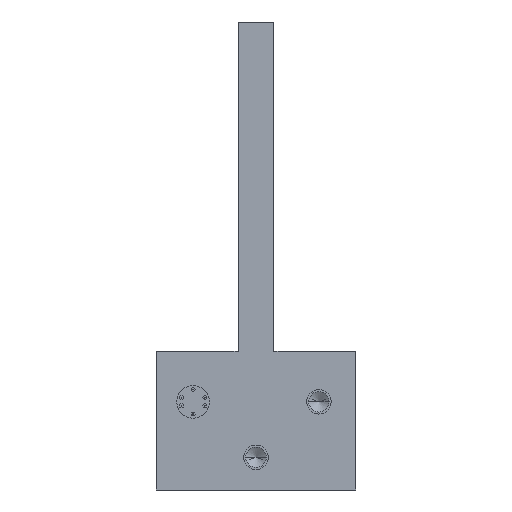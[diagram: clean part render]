
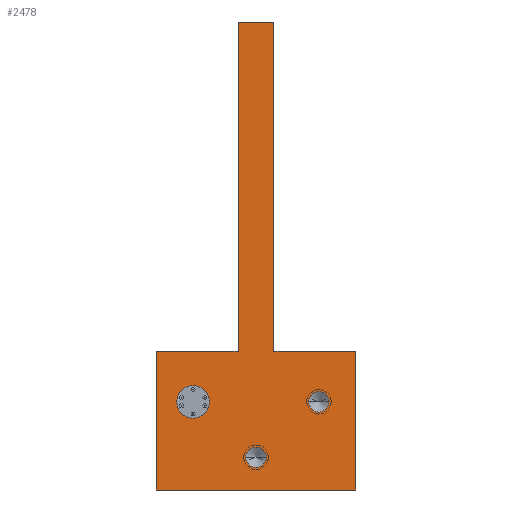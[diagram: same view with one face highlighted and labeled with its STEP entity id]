
A CAD part, front view. The second image highlights one B-rep face of the part: STEP entity #2478.
In plain terms, the highlighted planar face has unit normal (0, -1, 0).
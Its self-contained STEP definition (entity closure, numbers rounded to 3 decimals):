
#1=DIRECTION('',(1.,0.,0.));
#2=VECTOR('',#1,10.);
#3=CARTESIAN_POINT('',(2.2,-199.4,0.));
#4=LINE('',#3,#2);
#5=DIRECTION('',(0.,0.,-1.));
#6=VECTOR('',#5,17.);
#7=CARTESIAN_POINT('',(12.2,-199.4,0.));
#8=LINE('',#7,#6);
#9=DIRECTION('',(-1.,0.,0.));
#10=VECTOR('',#9,24.4);
#11=CARTESIAN_POINT('',(12.2,-199.4,-17.));
#12=LINE('',#11,#10);
#13=DIRECTION('',(0.,0.,1.));
#14=VECTOR('',#13,17.);
#15=CARTESIAN_POINT('',(-12.2,-199.4,-17.));
#16=LINE('',#15,#14);
#17=DIRECTION('',(1.,0.,0.));
#18=VECTOR('',#17,10.);
#19=CARTESIAN_POINT('',(-12.2,-199.4,0.));
#20=LINE('',#19,#18);
#21=DIRECTION('',(0.,0.,1.));
#22=VECTOR('',#21,40.3);
#23=CARTESIAN_POINT('',(-2.2,-199.4,0.));
#24=LINE('',#23,#22);
#25=DIRECTION('',(1.,0.,0.));
#26=VECTOR('',#25,4.4);
#27=CARTESIAN_POINT('',(-2.2,-199.4,40.3));
#28=LINE('',#27,#26);
#29=DIRECTION('',(0.,0.,-1.));
#30=VECTOR('',#29,40.3);
#31=CARTESIAN_POINT('',(2.2,-199.4,40.3));
#32=LINE('',#31,#30);
#33=CARTESIAN_POINT('',(0.,-199.4,-13.));
#34=DIRECTION('',(0.,-1.,0.));
#35=DIRECTION('',(-1.,0.,0.));
#36=AXIS2_PLACEMENT_3D('',#33,#34,#35);
#38=CARTESIAN_POINT('',(0.,-199.4,-13.));
#39=DIRECTION('',(0.,-1.,0.));
#40=DIRECTION('',(1.,0.,0.));
#41=AXIS2_PLACEMENT_3D('',#38,#39,#40);
#43=CARTESIAN_POINT('',(7.7,-199.4,-6.2));
#44=DIRECTION('',(0.,-1.,0.));
#45=DIRECTION('',(-1.,0.,0.));
#46=AXIS2_PLACEMENT_3D('',#43,#44,#45);
#48=CARTESIAN_POINT('',(7.7,-199.4,-6.2));
#49=DIRECTION('',(0.,-1.,0.));
#50=DIRECTION('',(1.,0.,0.));
#51=AXIS2_PLACEMENT_3D('',#48,#49,#50);
#53=CARTESIAN_POINT('',(-7.7,-199.4,-6.2));
#54=DIRECTION('',(0.,-1.,0.));
#55=DIRECTION('',(-1.,0.,0.));
#56=AXIS2_PLACEMENT_3D('',#53,#54,#55);
#58=CARTESIAN_POINT('',(-7.7,-199.4,-6.2));
#59=DIRECTION('',(0.,-1.,0.));
#60=DIRECTION('',(1.,0.,0.));
#61=AXIS2_PLACEMENT_3D('',#58,#59,#60);
#1901=CARTESIAN_POINT('',(2.2,-199.4,0.));
#1902=CARTESIAN_POINT('',(12.2,-199.4,0.));
#1903=VERTEX_POINT('',#1901);
#1904=VERTEX_POINT('',#1902);
#1905=CARTESIAN_POINT('',(12.2,-199.4,-17.));
#1906=VERTEX_POINT('',#1905);
#1907=CARTESIAN_POINT('',(-12.2,-199.4,-17.));
#1908=VERTEX_POINT('',#1907);
#1909=CARTESIAN_POINT('',(-12.2,-199.4,0.));
#1910=VERTEX_POINT('',#1909);
#1911=CARTESIAN_POINT('',(-2.2,-199.4,0.));
#1912=VERTEX_POINT('',#1911);
#1913=CARTESIAN_POINT('',(-2.2,-199.4,40.3));
#1914=VERTEX_POINT('',#1913);
#1915=CARTESIAN_POINT('',(2.2,-199.4,40.3));
#1916=VERTEX_POINT('',#1915);
#1939=CARTESIAN_POINT('',(-1.25,-199.4,-13.));
#1940=CARTESIAN_POINT('',(1.25,-199.4,-13.));
#1941=VERTEX_POINT('',#1939);
#1942=VERTEX_POINT('',#1940);
#1949=CARTESIAN_POINT('',(6.45,-199.4,-6.2));
#1950=CARTESIAN_POINT('',(8.95,-199.4,-6.2));
#1951=VERTEX_POINT('',#1949);
#1952=VERTEX_POINT('',#1950);
#2337=CARTESIAN_POINT('',(-9.7,-199.4,-6.2));
#2338=CARTESIAN_POINT('',(-5.7,-199.4,-6.2));
#2339=VERTEX_POINT('',#2337);
#2340=VERTEX_POINT('',#2338);
#2437=CARTESIAN_POINT('',(0.,-199.4,0.));
#2438=DIRECTION('',(0.,1.,0.));
#2439=DIRECTION('',(1.,0.,0.));
#2440=AXIS2_PLACEMENT_3D('',#2437,#2438,#2439);
#2441=PLANE('',#2440);
#2443=ORIENTED_EDGE('',*,*,#2442,.T.);
#2445=ORIENTED_EDGE('',*,*,#2444,.T.);
#2447=ORIENTED_EDGE('',*,*,#2446,.T.);
#2449=ORIENTED_EDGE('',*,*,#2448,.T.);
#2451=ORIENTED_EDGE('',*,*,#2450,.T.);
#2453=ORIENTED_EDGE('',*,*,#2452,.T.);
#2455=ORIENTED_EDGE('',*,*,#2454,.T.);
#2457=ORIENTED_EDGE('',*,*,#2456,.T.);
#2458=EDGE_LOOP('',(#2443,#2445,#2447,#2449,#2451,#2453,#2455,#2457));
#2459=FACE_OUTER_BOUND('',#2458,.F.);
#2461=ORIENTED_EDGE('',*,*,#2460,.T.);
#2463=ORIENTED_EDGE('',*,*,#2462,.T.);
#2464=EDGE_LOOP('',(#2461,#2463));
#2465=FACE_BOUND('',#2464,.F.);
#2467=ORIENTED_EDGE('',*,*,#2466,.T.);
#2469=ORIENTED_EDGE('',*,*,#2468,.T.);
#2470=EDGE_LOOP('',(#2467,#2469));
#2471=FACE_BOUND('',#2470,.F.);
#2473=ORIENTED_EDGE('',*,*,#2472,.T.);
#2475=ORIENTED_EDGE('',*,*,#2474,.T.);
#2476=EDGE_LOOP('',(#2473,#2475));
#2477=FACE_BOUND('',#2476,.F.);
#2478=ADVANCED_FACE('',(#2459,#2465,#2471,#2477),#2441,.F.);
#37=CIRCLE('',#36,1.25);
#42=CIRCLE('',#41,1.25);
#47=CIRCLE('',#46,1.25);
#52=CIRCLE('',#51,1.25);
#57=CIRCLE('',#56,2.);
#62=CIRCLE('',#61,2.);
#2442=EDGE_CURVE('',#1903,#1904,#4,.T.);
#2444=EDGE_CURVE('',#1904,#1906,#8,.T.);
#2446=EDGE_CURVE('',#1906,#1908,#12,.T.);
#2448=EDGE_CURVE('',#1908,#1910,#16,.T.);
#2450=EDGE_CURVE('',#1910,#1912,#20,.T.);
#2452=EDGE_CURVE('',#1912,#1914,#24,.T.);
#2454=EDGE_CURVE('',#1914,#1916,#28,.T.);
#2456=EDGE_CURVE('',#1916,#1903,#32,.T.);
#2460=EDGE_CURVE('',#1941,#1942,#37,.T.);
#2462=EDGE_CURVE('',#1942,#1941,#42,.T.);
#2466=EDGE_CURVE('',#1951,#1952,#47,.T.);
#2468=EDGE_CURVE('',#1952,#1951,#52,.T.);
#2472=EDGE_CURVE('',#2339,#2340,#57,.T.);
#2474=EDGE_CURVE('',#2340,#2339,#62,.T.);
